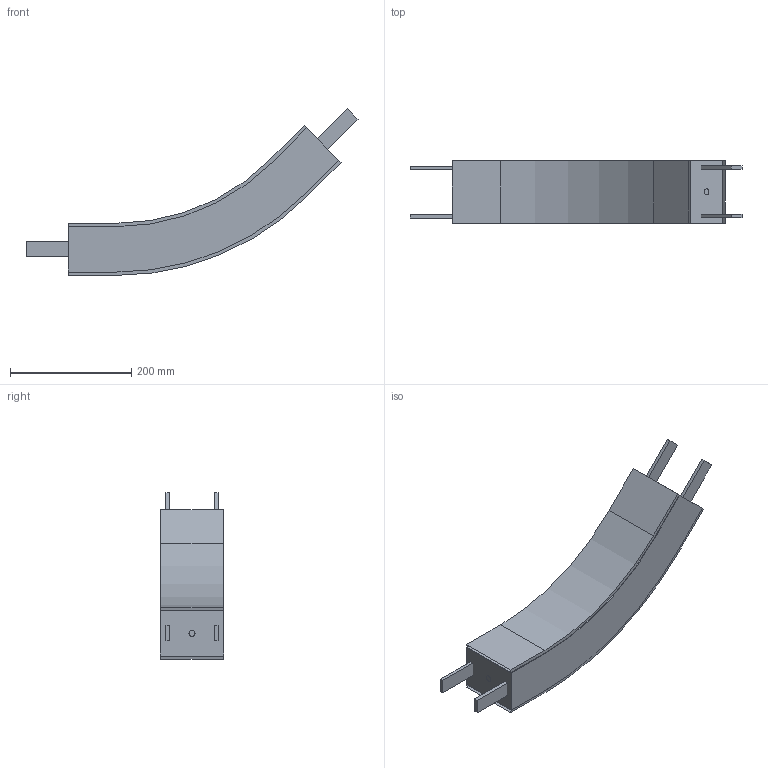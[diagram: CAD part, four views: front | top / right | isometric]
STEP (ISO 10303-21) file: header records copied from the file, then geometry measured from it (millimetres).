
FILE_DESCRIPTION(/* description */ ('Vertikaler Gleitbogen, 45°, R400'),/* implementation_level */ '2;1');
FILE_NAME(/* name */ 'T:\vdz0\Step Daten Website\modulflex FH-System\Vertikale Gleitbögen\FHBV 45R400_44031.stp',/* time_stamp */ '2024-09-03T14:31:20+02:00',/* author */ ('lzb0'),/* organization */ ('modular automation GmbH'),/* preprocessor_version */ 'ST-DEVELOPER v18.1',/* originating_system */ 'Autodesk Inventor 2021',/* authorisation */ '');
FILE_SCHEMA (('AUTOMOTIVE_DESIGN { 1 0 10303 214 3 1 1 }'));
Length unit declared in the file: millimetre
Products named in the file (1): FHBV 45R400
Bounding box: 547.75 x 105 x 275.06 mm (x, y, z)
Volume: 3818004.2 mm3; surface area: 428780.8 mm2
Topology: 5 solids, 9 shells, 52 faces, 126 edges, 84 vertices
Faces by surface type: plane 44, cylinder 8
Full cylindrical faces by diameter (mm): 10 x2
Entity records: 1598 total; most frequent: CARTESIAN_POINT 270, DIRECTION 250, ORIENTED_EDGE 232, EDGE_CURVE 126, LINE 110, VECTOR 110, VERTEX_POINT 84, AXIS2_PLACEMENT_3D 70
